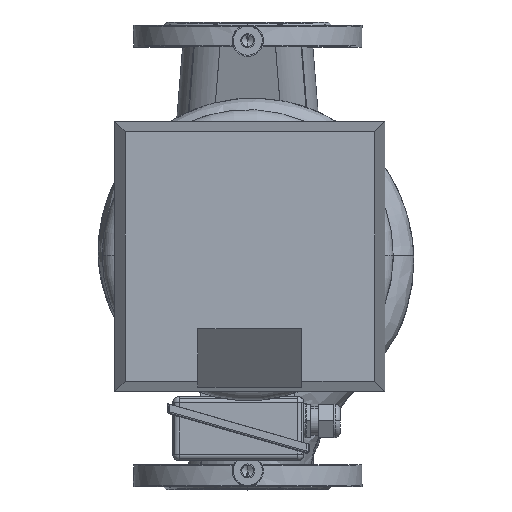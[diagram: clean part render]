
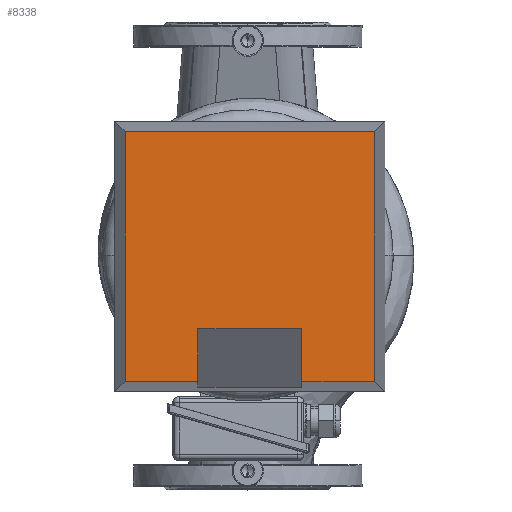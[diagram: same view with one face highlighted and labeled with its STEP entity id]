
A CAD part, top view. The second image highlights one B-rep face of the part: STEP entity #8338.
In plain terms, the highlighted planar face has unit normal (0, 0, 1) as drawn and (0, 1, 0) by its records, which use the part's own axes.
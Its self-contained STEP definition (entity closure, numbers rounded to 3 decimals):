
#8338=ADVANCED_FACE('',(#16173),#16174,.T.);
#8348=EDGE_CURVE('',#16189,#16186,#16190,.T.);
#16173=FACE_OUTER_BOUND('',#34183,.T.);
#16174=PLANE('',#34184);
#16186=VERTEX_POINT('',#34197);
#16189=VERTEX_POINT('',#34202);
#16190=LINE('',#34203,#34204);
#34183=EDGE_LOOP('',(#47415,#47416,#47417,#47418,#47419,#47420,#47421,#47422));
#34184=AXIS2_PLACEMENT_3D('',#47423,#47424,#47425);
#34197=CARTESIAN_POINT('',(-50.0,90.0,199.485));
#34202=CARTESIAN_POINT('',(-50.0,90.0,250.0));
#34203=CARTESIAN_POINT('',(-50.0,90.0,127.834));
#34204=VECTOR('',#47451,1.0);
#47415=ORIENTED_EDGE('',*,*,#49279,.T.);
#47416=ORIENTED_EDGE('',*,*,#49285,.F.);
#47417=ORIENTED_EDGE('',*,*,#49293,.F.);
#47418=ORIENTED_EDGE('',*,*,#49295,.F.);
#47419=ORIENTED_EDGE('',*,*,#49287,.F.);
#47420=ORIENTED_EDGE('',*,*,#49281,.F.);
#47421=ORIENTED_EDGE('',*,*,#8348,.T.);
#47422=ORIENTED_EDGE('',*,*,#49275,.T.);
#47423=CARTESIAN_POINT('',(0.0,90.0,0.0));
#47424=DIRECTION('',(0.0,1.0,-0.0));
#47425=DIRECTION('',(-1.0,0.0,0.0));
#47451=DIRECTION('',(0.0,-0.0,-1.0));
#49275=EDGE_CURVE('',#16186,#51507,#51510,.T.);
#49279=EDGE_CURVE('',#51507,#51513,#51515,.T.);
#49281=EDGE_CURVE('',#16189,#51517,#51518,.T.);
#49285=EDGE_CURVE('',#51523,#51513,#51525,.T.);
#49287=EDGE_CURVE('',#51517,#51527,#51528,.T.);
#49293=EDGE_CURVE('',#51533,#51523,#51535,.T.);
#49295=EDGE_CURVE('',#51527,#51533,#51537,.T.);
#51507=VERTEX_POINT('',#56332);
#51510=LINE('',#56336,#56337);
#51513=VERTEX_POINT('',#56341);
#51515=LINE('',#56344,#56345);
#51517=VERTEX_POINT('',#56347);
#51518=LINE('',#56348,#56349);
#51523=VERTEX_POINT('',#56356);
#51525=LINE('',#56359,#56360);
#51527=VERTEX_POINT('',#56362);
#51528=LINE('',#56363,#56364);
#51533=VERTEX_POINT('',#56372);
#51535=LINE('',#56375,#56376);
#51537=LINE('',#56378,#56379);
#56332=CARTESIAN_POINT('',(50.0,90.0,199.485));
#56336=CARTESIAN_POINT('',(-25.0,90.0,199.485));
#56337=VECTOR('',#57508,1.0);
#56341=CARTESIAN_POINT('',(50.0,90.0,250.0));
#56344=CARTESIAN_POINT('',(50.0,90.0,127.834));
#56345=VECTOR('',#57511,1.0);
#56347=CARTESIAN_POINT('',(-120.0,90.0,250.0));
#56348=CARTESIAN_POINT('',(65.0,90.0,250.0));
#56349=VECTOR('',#57512,1.0);
#56356=CARTESIAN_POINT('',(120.0,90.0,250.0));
#56359=CARTESIAN_POINT('',(65.0,90.0,250.0));
#56360=VECTOR('',#57516,1.0);
#56362=CARTESIAN_POINT('',(-120.0,90.0,10.0));
#56363=CARTESIAN_POINT('',(-120.0,90.0,0.0));
#56364=VECTOR('',#57517,1.0);
#56372=CARTESIAN_POINT('',(120.0,90.0,10.0));
#56375=CARTESIAN_POINT('',(120.0,90.0,0.0));
#56376=VECTOR('',#57522,1.0);
#56378=CARTESIAN_POINT('',(65.0,90.0,10.0));
#56379=VECTOR('',#57523,1.0);
#57508=DIRECTION('',(1.0,0.0,0.0));
#57511=DIRECTION('',(-0.0,0.0,1.0));
#57512=DIRECTION('',(-1.0,0.0,-0.0));
#57516=DIRECTION('',(-1.0,0.0,-0.0));
#57517=DIRECTION('',(-0.0,-0.0,-1.0));
#57522=DIRECTION('',(-0.0,0.0,1.0));
#57523=DIRECTION('',(1.0,-0.0,-0.0));
